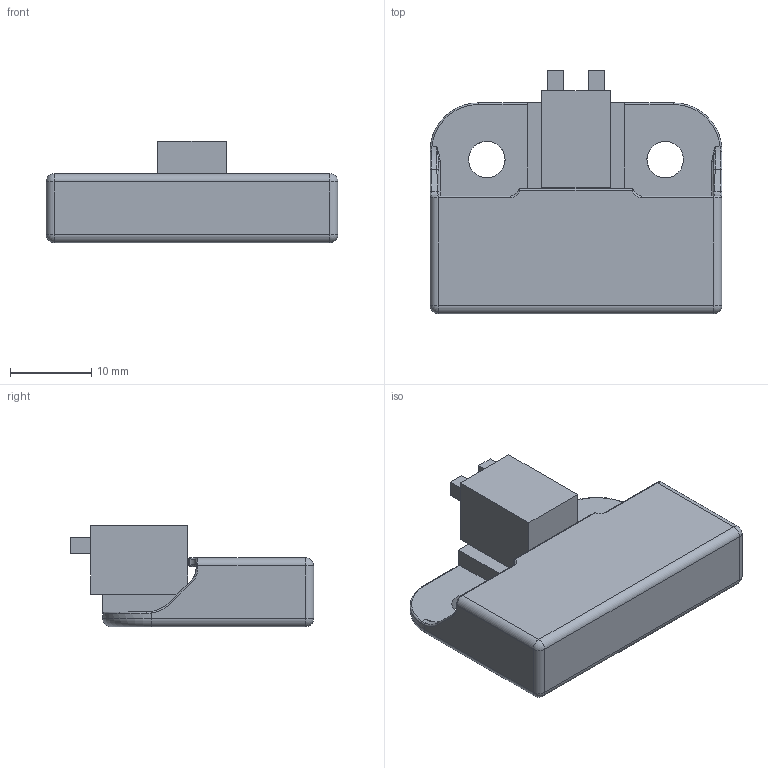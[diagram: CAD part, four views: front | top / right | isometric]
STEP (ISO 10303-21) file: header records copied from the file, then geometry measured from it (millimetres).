
FILE_DESCRIPTION((''),'2;1');
FILE_NAME('2008093','2010-11-11T',('merz'),(''),'PRO/ENGINEER BY PARAMETRIC TECHNOLOGY CORPORATION, 2009380','PRO/ENGINEER BY PARAMETRIC TECHNOLOGY CORPORATION, 2009380','');
FILE_SCHEMA(('AUTOMOTIVE_DESIGN_CC2 { 1 2 10303 214 -1 1 5 2 }'));
Length unit declared in the file: millimetre
Products named in the file (1): 2008093
Bounding box: 36 x 30 x 12.5 mm (x, y, z)
Volume: 6222.1 mm3; surface area: 3269.1 mm2
Topology: 1 solids, 1 shells, 140 faces, 324 edges, 190 vertices
Faces by surface type: plane 61, cylinder 41, bspline 16, torus 14, sphere 8
Entity records: 5568 total; most frequent: CARTESIAN_POINT 1440, ORIENTED_EDGE 648, DIRECTION 622, PRESENTATION_STYLE_ASSIGNMENT 326, STYLED_ITEM 326, CURVE_STYLE 325, EDGE_CURVE 324, AXIS2_PLACEMENT_3D 220
